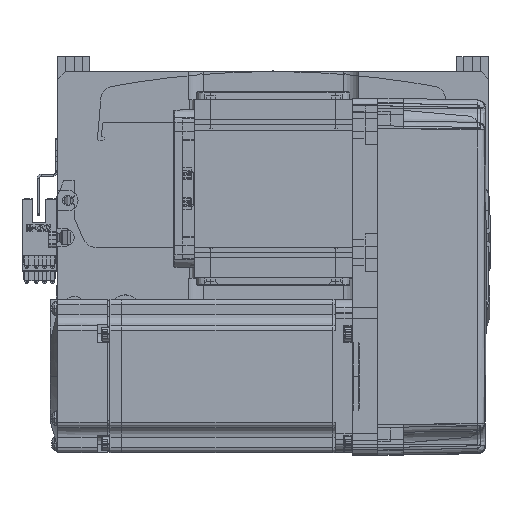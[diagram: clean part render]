
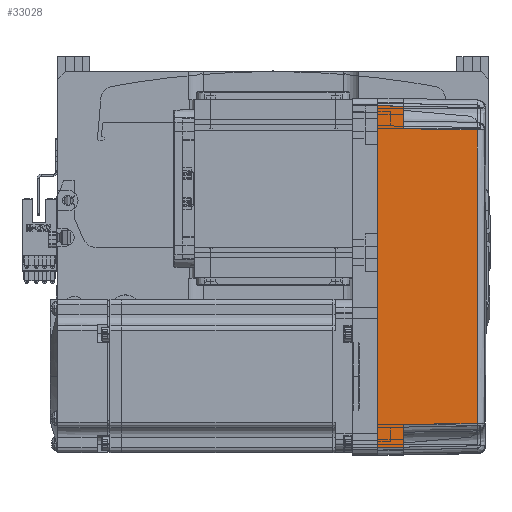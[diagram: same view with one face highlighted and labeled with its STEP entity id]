
A CAD part, top view. The second image highlights one B-rep face of the part: STEP entity #33028.
In plain terms, the highlighted planar face has unit normal (0.018, 0, 1) as drawn and (0, 1, 0.017) by its records, which use the part's own axes.
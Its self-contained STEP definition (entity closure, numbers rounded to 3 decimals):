
#581 = VECTOR ( 'NONE', #42253, 1000. ) ;
#2278 = EDGE_CURVE ( 'NONE', #25041, #65850, #58194, .T. ) ;
#2419 = VERTEX_POINT ( 'NONE', #31358 ) ;
#2759 = CARTESIAN_POINT ( 'NONE',  ( -67., 36., 0. ) ) ;
#3412 = VECTOR ( 'NONE', #8149, 1000. ) ;
#4308 = EDGE_CURVE ( 'NONE', #65850, #11328, #65053, .T. ) ;
#4866 = AXIS2_PLACEMENT_3D ( 'NONE', #55082, #42999, #65774 ) ;
#5198 = LINE ( 'NONE', #19230, #3412 ) ;
#6604 = CARTESIAN_POINT ( 'NONE',  ( 67., 36., 0. ) ) ;
#7453 = CARTESIAN_POINT ( 'NONE',  ( 57.495, 35.32, 38.985 ) ) ;
#8149 = DIRECTION ( 'NONE',  ( 1., 0., 0. ) ) ;
#8241 = DIRECTION ( 'NONE',  ( -0.017, -0.017, 1. ) ) ;
#8963 = ORIENTED_EDGE ( 'NONE', *, *, #33700, .F. ) ;
#9025 = CARTESIAN_POINT ( 'NONE',  ( 57.495, 35.32, 38.985 ) ) ;
#9427 = PLANE ( 'NONE',  #4866 ) ;
#11328 = VERTEX_POINT ( 'NONE', #14805 ) ;
#11621 = EDGE_CURVE ( 'NONE', #20877, #2419, #68282, .T. ) ;
#12711 = VERTEX_POINT ( 'NONE', #32656 ) ;
#13405 = VECTOR ( 'NONE', #42995, 1000. ) ;
#14805 = CARTESIAN_POINT ( 'NONE',  ( 66.826, 35.825, 10. ) ) ;
#16478 = VERTEX_POINT ( 'NONE', #20757 ) ;
#18520 = ORIENTED_EDGE ( 'NONE', *, *, #2278, .T. ) ;
#19109 = ORIENTED_EDGE ( 'NONE', *, *, #4308, .T. ) ;
#19230 = CARTESIAN_POINT ( 'NONE',  ( 70., 35.825, 10. ) ) ;
#20611 = LINE ( 'NONE', #49066, #41762 ) ;
#20757 = CARTESIAN_POINT ( 'NONE',  ( -66.826, 35.825, 10. ) ) ;
#20877 = VERTEX_POINT ( 'NONE', #42473 ) ;
#22817 = VERTEX_POINT ( 'NONE', #6604 ) ;
#24325 = CARTESIAN_POINT ( 'NONE',  ( 57.495, 35.32, 38.985 ) ) ;
#24415 = VECTOR ( 'NONE', #38290, 1000. ) ;
#24946 = DIRECTION ( 'NONE',  ( 0.017, 0.017, -1. ) ) ;
#25041 = VERTEX_POINT ( 'NONE', #9025 ) ;
#25535 = ORIENTED_EDGE ( 'NONE', *, *, #59169, .T. ) ;
#29813 = LINE ( 'NONE', #53388, #57168 ) ;
#31358 = CARTESIAN_POINT ( 'NONE',  ( -57.495, 35.32, 38.985 ) ) ;
#32647 = CARTESIAN_POINT ( 'NONE',  ( 58., 35.825, 10. ) ) ;
#32656 = CARTESIAN_POINT ( 'NONE',  ( -67., 36., 0. ) ) ;
#33028 = ADVANCED_FACE ( 'NONE', ( #55395 ), #9427, .T. ) ;
#33700 = EDGE_CURVE ( 'NONE', #12711, #22817, #20611, .T. ) ;
#34015 = EDGE_CURVE ( 'NONE', #2419, #25041, #47899, .T. ) ;
#35258 = EDGE_LOOP ( 'NONE', ( #25535, #62003, #69611, #70242, #18520, #19109, #60445, #8963 ) ) ;
#38290 = DIRECTION ( 'NONE',  ( 1., 0., 0. ) ) ;
#39585 = VECTOR ( 'NONE', #24946, 1000. ) ;
#41762 = VECTOR ( 'NONE', #48823, 1000. ) ;
#42253 = DIRECTION ( 'NONE',  ( 0.017, -0.017, 1. ) ) ;
#42473 = CARTESIAN_POINT ( 'NONE',  ( -58., 35.825, 10. ) ) ;
#42995 = DIRECTION ( 'NONE',  ( 0.017, -0.017, 1. ) ) ;
#42999 = DIRECTION ( 'NONE',  ( 0., 1., 0.017 ) ) ;
#47899 = B_SPLINE_CURVE_WITH_KNOTS ( 'NONE', 3,
 ( #53172, #69061, #58625, #24325 ),
 .UNSPECIFIED., .F., .F.,
 ( 4, 4 ),
 ( 0., 1. ),
 .UNSPECIFIED. ) ;
#48823 = DIRECTION ( 'NONE',  ( 1., 0., 0. ) ) ;
#49066 = CARTESIAN_POINT ( 'NONE',  ( 0., 36., 0. ) ) ;
#53172 = CARTESIAN_POINT ( 'NONE',  ( -57.495, 35.32, 38.985 ) ) ;
#53388 = CARTESIAN_POINT ( 'NONE',  ( 67.001, 36.001, -0.052 ) ) ;
#55082 = CARTESIAN_POINT ( 'NONE',  ( 70., 36., 0. ) ) ;
#55345 = CARTESIAN_POINT ( 'NONE',  ( 70., 35.825, 10. ) ) ;
#55395 = FACE_OUTER_BOUND ( 'NONE', #35258, .T. ) ;
#57168 = VECTOR ( 'NONE', #8241, 1000. ) ;
#58091 = LINE ( 'NONE', #2759, #581 ) ;
#58194 = LINE ( 'NONE', #7453, #39585 ) ;
#58625 = CARTESIAN_POINT ( 'NONE',  ( 19.165, 35.316, 39.181 ) ) ;
#59117 = EDGE_CURVE ( 'NONE', #22817, #11328, #29813, .T. ) ;
#59169 = EDGE_CURVE ( 'NONE', #12711, #16478, #58091, .T. ) ;
#60445 = ORIENTED_EDGE ( 'NONE', *, *, #59117, .F. ) ;
#62003 = ORIENTED_EDGE ( 'NONE', *, *, #66103, .T. ) ;
#65053 = LINE ( 'NONE', #55345, #24415 ) ;
#65774 = DIRECTION ( 'NONE',  ( 0., -0.017, 1. ) ) ;
#65850 = VERTEX_POINT ( 'NONE', #32647 ) ;
#66103 = EDGE_CURVE ( 'NONE', #16478, #20877, #5198, .T. ) ;
#68282 = LINE ( 'NONE', #71679, #13405 ) ;
#69061 = CARTESIAN_POINT ( 'NONE',  ( -19.165, 35.316, 39.181 ) ) ;
#69611 = ORIENTED_EDGE ( 'NONE', *, *, #11621, .T. ) ;
#70242 = ORIENTED_EDGE ( 'NONE', *, *, #34015, .T. ) ;
#71679 = CARTESIAN_POINT ( 'NONE',  ( -58., 35.825, 10. ) ) ;
